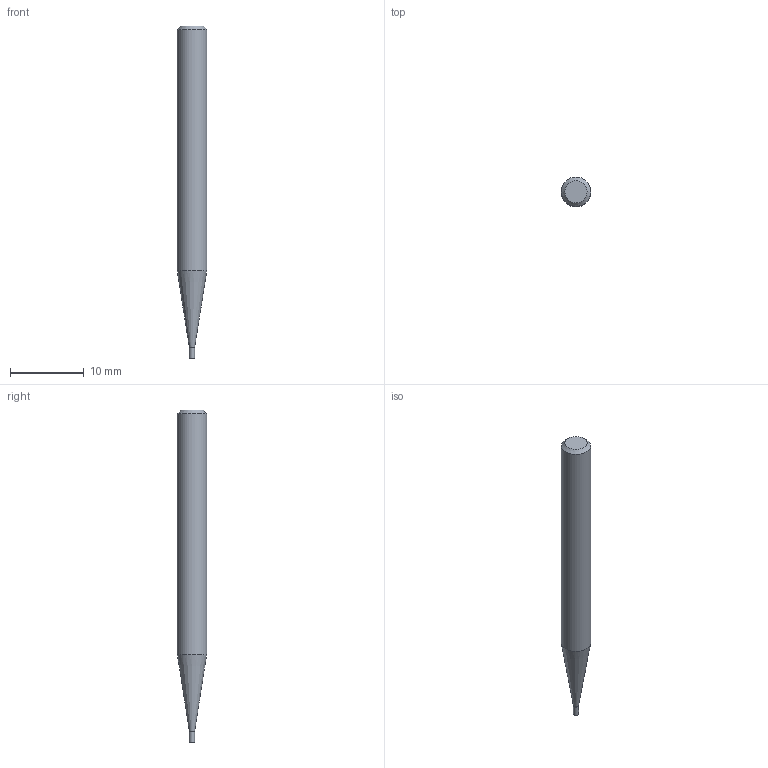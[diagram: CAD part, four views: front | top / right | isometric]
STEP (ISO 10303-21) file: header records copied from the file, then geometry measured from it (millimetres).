
FILE_DESCRIPTION((''),'2;1');
FILE_NAME('C:\Users\nsx150\AppData\Local\Temp\Mastercam 2021\W9Z147XDNF\TEMP.step','2021-04-08T14:29:44',(''),(''),'STEP Write','Mastercam 2021 ... CNC Software, Inc.','');
FILE_SCHEMA(('AUTOMOTIVE_DESIGN'));
Length unit declared in the file: millimetre
Products named in the file (1): None
Bounding box: 4 x 4 x 45 mm (x, y, z)
Volume: 468.7 mm3; surface area: 507.6 mm2
Topology: 2 solids, 2 shells, 8 faces, 10 edges, 6 vertices
Faces by surface type: plane 4, cylinder 2, cone 2
Full cylindrical faces by diameter (mm): 0.7 x1, 4 x1
Entity records: 190 total; most frequent: DIRECTION 32, CARTESIAN_POINT 22, AXIS2_PLACEMENT_3D 16, ORIENTED_EDGE 12, EDGE_LOOP 12, STYLED_ITEM 11, ADVANCED_FACE 8, VERTEX_POINT 6
